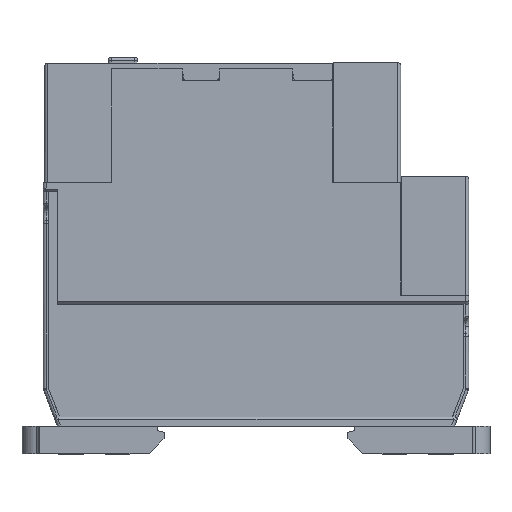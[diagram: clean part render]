
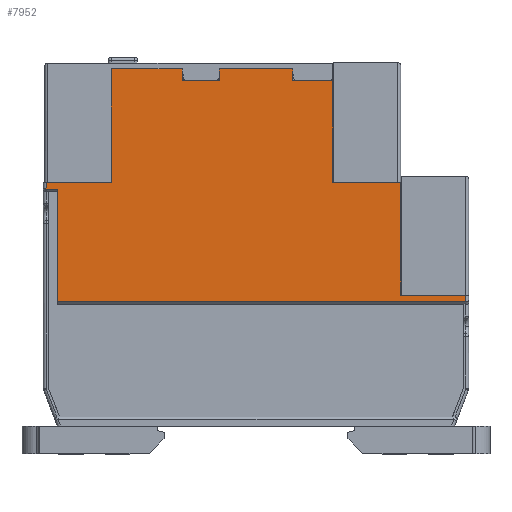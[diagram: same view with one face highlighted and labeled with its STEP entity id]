
A CAD part, left-side view. The second image highlights one B-rep face of the part: STEP entity #7952.
In plain terms, the highlighted planar face has unit normal (-1, 0, 0).
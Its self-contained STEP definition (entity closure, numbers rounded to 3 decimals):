
#323 = VERTEX_POINT ( 'NONE', #24700 ) ;
#411 = LINE ( 'NONE', #27509, #3216 ) ;
#596 = VECTOR ( 'NONE', #2164, 1000. ) ;
#692 = AXIS2_PLACEMENT_3D ( 'NONE', #9901, #19812, #29772 ) ;
#1011 = LINE ( 'NONE', #1178, #21867 ) ;
#1178 = CARTESIAN_POINT ( 'NONE',  ( 0., 4.304, 47.83 ) ) ;
#1490 = DIRECTION ( 'NONE',  ( 0., 0., 1. ) ) ;
#1542 = ORIENTED_EDGE ( 'NONE', *, *, #7914, .T. ) ;
#1998 = CARTESIAN_POINT ( 'NONE',  ( 0., 67.304, 47.83 ) ) ;
#2164 = DIRECTION ( 'NONE',  ( 0., 1., 0. ) ) ;
#2226 = VERTEX_POINT ( 'NONE', #3435 ) ;
#2334 = CARTESIAN_POINT ( 'NONE',  ( 0., 41.6, 48.384 ) ) ;
#2358 = VERTEX_POINT ( 'NONE', #23883 ) ;
#2534 = VERTEX_POINT ( 'NONE', #26249 ) ;
#2629 = LINE ( 'NONE', #10074, #11152 ) ;
#2683 = CARTESIAN_POINT ( 'NONE',  ( 0., 67.304, 68.544 ) ) ;
#2704 = VECTOR ( 'NONE', #15376, 1000. ) ;
#2785 = VERTEX_POINT ( 'NONE', #2683 ) ;
#2808 = VERTEX_POINT ( 'NONE', #30115 ) ;
#2964 = VERTEX_POINT ( 'NONE', #13668 ) ;
#3145 = CARTESIAN_POINT ( 'NONE',  ( 0., 48.102, 68.544 ) ) ;
#3157 = CARTESIAN_POINT ( 'NONE',  ( 0., 27.992, 47.83 ) ) ;
#3216 = VECTOR ( 'NONE', #12533, 1000. ) ;
#3405 = CARTESIAN_POINT ( 'NONE',  ( 0., 48.102, 66.427 ) ) ;
#3417 = DIRECTION ( 'NONE',  ( 0., 0., 1. ) ) ;
#3435 = CARTESIAN_POINT ( 'NONE',  ( 0., 15.896, 48.384 ) ) ;
#3632 = LINE ( 'NONE', #3157, #18001 ) ;
#4084 = LINE ( 'NONE', #15725, #8293 ) ;
#4170 = VECTOR ( 'NONE', #25401, 1000. ) ;
#4439 = LINE ( 'NONE', #1998, #20778 ) ;
#4662 = VERTEX_POINT ( 'NONE', #22268 ) ;
#5545 = EDGE_CURVE ( 'NONE', #2785, #2964, #4439, .T. ) ;
#5731 = EDGE_CURVE ( 'NONE', #23628, #13111, #27956, .T. ) ;
#5747 = VERTEX_POINT ( 'NONE', #23075 ) ;
#6636 = DIRECTION ( 'NONE',  ( 0., 0., -1. ) ) ;
#6660 = ORIENTED_EDGE ( 'NONE', *, *, #18634, .T. ) ;
#6709 = VERTEX_POINT ( 'NONE', #16909 ) ;
#6848 = ORIENTED_EDGE ( 'NONE', *, *, #18455, .T. ) ;
#7369 = DIRECTION ( 'NONE',  ( 0., -1., 0. ) ) ;
#7517 = DIRECTION ( 'NONE',  ( 0., 1., 0. ) ) ;
#7528 = ORIENTED_EDGE ( 'NONE', *, *, #7567, .T. ) ;
#7567 = EDGE_CURVE ( 'NONE', #5747, #9955, #411, .T. ) ;
#7630 = DIRECTION ( 'NONE',  ( 0., -1., 0. ) ) ;
#7704 = ORIENTED_EDGE ( 'NONE', *, *, #28274, .T. ) ;
#7914 = EDGE_CURVE ( 'NONE', #2226, #2358, #11846, .T. ) ;
#7952 = ADVANCED_FACE ( 'NONE', ( #32042 ), #9744, .T. ) ;
#8225 = ORIENTED_EDGE ( 'NONE', *, *, #12262, .T. ) ;
#8293 = VECTOR ( 'NONE', #1490, 1000. ) ;
#8413 = LINE ( 'NONE', #25497, #2704 ) ;
#9210 = CARTESIAN_POINT ( 'NONE',  ( 0., 76.88, 47.83 ) ) ;
#9356 = VECTOR ( 'NONE', #6636, 1000. ) ;
#9433 = LINE ( 'NONE', #17218, #596 ) ;
#9638 = ORIENTED_EDGE ( 'NONE', *, *, #19550, .T. ) ;
#9639 = LINE ( 'NONE', #19530, #10963 ) ;
#9734 = DIRECTION ( 'NONE',  ( 0., -1., 0. ) ) ;
#9744 = PLANE ( 'NONE',  #692 ) ;
#9765 = EDGE_CURVE ( 'NONE', #323, #5747, #11279, .T. ) ;
#9880 = ORIENTED_EDGE ( 'NONE', *, *, #15754, .T. ) ;
#9901 = CARTESIAN_POINT ( 'NONE',  ( 0., 78.896, 27.115 ) ) ;
#9955 = VERTEX_POINT ( 'NONE', #13214 ) ;
#9978 = ORIENTED_EDGE ( 'NONE', *, *, #31064, .T. ) ;
#10074 = CARTESIAN_POINT ( 'NONE',  ( 0., 67.228, 48.384 ) ) ;
#10796 = ORIENTED_EDGE ( 'NONE', *, *, #25894, .F. ) ;
#10963 = VECTOR ( 'NONE', #7369, 1000. ) ;
#11152 = VECTOR ( 'NONE', #7630, 1000. ) ;
#11279 = LINE ( 'NONE', #30980, #13062 ) ;
#11846 = LINE ( 'NONE', #2334, #12047 ) ;
#12029 = EDGE_CURVE ( 'NONE', #4662, #2808, #22109, .T. ) ;
#12047 = VECTOR ( 'NONE', #14618, 1000. ) ;
#12262 = EDGE_CURVE ( 'NONE', #9955, #6709, #31511, .T. ) ;
#12533 = DIRECTION ( 'NONE',  ( 0., -1., 0. ) ) ;
#13007 = CARTESIAN_POINT ( 'NONE',  ( 0., 41.6, 68.544 ) ) ;
#13018 = ORIENTED_EDGE ( 'NONE', *, *, #23029, .T. ) ;
#13062 = VECTOR ( 'NONE', #21199, 1000. ) ;
#13111 = VERTEX_POINT ( 'NONE', #26960 ) ;
#13143 = ORIENTED_EDGE ( 'NONE', *, *, #27881, .T. ) ;
#13214 = CARTESIAN_POINT ( 'NONE',  ( 0., 76.88, 47.174 ) ) ;
#13668 = CARTESIAN_POINT ( 'NONE',  ( 0., 67.304, 48.384 ) ) ;
#13770 = LINE ( 'NONE', #24055, #9356 ) ;
#14249 = VERTEX_POINT ( 'NONE', #25312 ) ;
#14608 = DIRECTION ( 'NONE',  ( 0., 0., -1. ) ) ;
#14618 = DIRECTION ( 'NONE',  ( 0., 1., 0. ) ) ;
#14919 = CARTESIAN_POINT ( 'NONE',  ( 0., 27.992, 66.427 ) ) ;
#15103 = VECTOR ( 'NONE', #29001, 1000. ) ;
#15228 = CARTESIAN_POINT ( 'NONE',  ( 0., 10.856, 28.325 ) ) ;
#15376 = DIRECTION ( 'NONE',  ( 0., 1., 0. ) ) ;
#15437 = CARTESIAN_POINT ( 'NONE',  ( 0., 41.6, 66.427 ) ) ;
#15725 = CARTESIAN_POINT ( 'NONE',  ( 0., 15.896, 47.83 ) ) ;
#15754 = EDGE_CURVE ( 'NONE', #2358, #25889, #3632, .T. ) ;
#16671 = DIRECTION ( 'NONE',  ( 0., 0., -1. ) ) ;
#16909 = CARTESIAN_POINT ( 'NONE',  ( 0., 76.88, 27.115 ) ) ;
#17218 = CARTESIAN_POINT ( 'NONE',  ( 0., 41.6, 68.544 ) ) ;
#17879 = LINE ( 'NONE', #15437, #4170 ) ;
#17900 = ORIENTED_EDGE ( 'NONE', *, *, #5731, .T. ) ;
#18001 = VECTOR ( 'NONE', #22980, 1000. ) ;
#18380 = ORIENTED_EDGE ( 'NONE', *, *, #9765, .T. ) ;
#18455 = EDGE_CURVE ( 'NONE', #13111, #2785, #9433, .T. ) ;
#18634 = EDGE_CURVE ( 'NONE', #19729, #21319, #13770, .T. ) ;
#19052 = CARTESIAN_POINT ( 'NONE',  ( 0., 35.098, 47.83 ) ) ;
#19530 = CARTESIAN_POINT ( 'NONE',  ( 0., 41.6, 27.115 ) ) ;
#19550 = EDGE_CURVE ( 'NONE', #6709, #2534, #9639, .T. ) ;
#19575 = EDGE_CURVE ( 'NONE', #14249, #32017, #21512, .T. ) ;
#19729 = VERTEX_POINT ( 'NONE', #3145 ) ;
#19812 = DIRECTION ( 'NONE',  ( -1., 0., 0. ) ) ;
#20778 = VECTOR ( 'NONE', #14608, 1000. ) ;
#20913 = CARTESIAN_POINT ( 'NONE',  ( 0., 54.704, 47.83 ) ) ;
#21199 = DIRECTION ( 'NONE',  ( 0., 0., -1. ) ) ;
#21319 = VERTEX_POINT ( 'NONE', #3405 ) ;
#21512 = LINE ( 'NONE', #19052, #15103 ) ;
#21867 = VECTOR ( 'NONE', #27982, 1000. ) ;
#22109 = LINE ( 'NONE', #15228, #31506 ) ;
#22268 = CARTESIAN_POINT ( 'NONE',  ( 0., 15.896, 28.325 ) ) ;
#22958 = LINE ( 'NONE', #13007, #30244 ) ;
#22980 = DIRECTION ( 'NONE',  ( 0., 0., 1. ) ) ;
#23029 = EDGE_CURVE ( 'NONE', #32017, #19729, #22958, .T. ) ;
#23031 = EDGE_LOOP ( 'NONE', ( #9638, #27179, #28739, #7704, #1542, #9880, #9978, #28338, #13018, #6660, #13143, #17900, #6848, #29055, #10796, #18380, #7528, #8225 ) ) ;
#23075 = CARTESIAN_POINT ( 'NONE',  ( 0., 78.896, 47.174 ) ) ;
#23628 = VERTEX_POINT ( 'NONE', #29681 ) ;
#23883 = CARTESIAN_POINT ( 'NONE',  ( 0., 27.992, 48.384 ) ) ;
#23904 = VECTOR ( 'NONE', #3417, 1000. ) ;
#24055 = CARTESIAN_POINT ( 'NONE',  ( 0., 48.102, 47.83 ) ) ;
#24700 = CARTESIAN_POINT ( 'NONE',  ( 0., 78.896, 48.384 ) ) ;
#25312 = CARTESIAN_POINT ( 'NONE',  ( 0., 35.098, 66.427 ) ) ;
#25401 = DIRECTION ( 'NONE',  ( 0., 1., 0. ) ) ;
#25497 = CARTESIAN_POINT ( 'NONE',  ( 0., 41.6, 66.427 ) ) ;
#25889 = VERTEX_POINT ( 'NONE', #14919 ) ;
#25894 = EDGE_CURVE ( 'NONE', #323, #2964, #2629, .T. ) ;
#26249 = CARTESIAN_POINT ( 'NONE',  ( 0., 4.304, 27.115 ) ) ;
#26960 = CARTESIAN_POINT ( 'NONE',  ( 0., 54.704, 68.544 ) ) ;
#27179 = ORIENTED_EDGE ( 'NONE', *, *, #30797, .T. ) ;
#27316 = CARTESIAN_POINT ( 'NONE',  ( 0., 35.098, 68.544 ) ) ;
#27509 = CARTESIAN_POINT ( 'NONE',  ( 0., 41.6, 47.174 ) ) ;
#27881 = EDGE_CURVE ( 'NONE', #21319, #23628, #17879, .T. ) ;
#27956 = LINE ( 'NONE', #20913, #23904 ) ;
#27982 = DIRECTION ( 'NONE',  ( 0., 0., 1. ) ) ;
#28274 = EDGE_CURVE ( 'NONE', #4662, #2226, #4084, .T. ) ;
#28338 = ORIENTED_EDGE ( 'NONE', *, *, #19575, .T. ) ;
#28739 = ORIENTED_EDGE ( 'NONE', *, *, #12029, .F. ) ;
#29001 = DIRECTION ( 'NONE',  ( 0., 0., 1. ) ) ;
#29055 = ORIENTED_EDGE ( 'NONE', *, *, #5545, .T. ) ;
#29681 = CARTESIAN_POINT ( 'NONE',  ( 0., 54.704, 66.427 ) ) ;
#29772 = DIRECTION ( 'NONE',  ( 0., -1., 0. ) ) ;
#29934 = VECTOR ( 'NONE', #16671, 1000. ) ;
#30115 = CARTESIAN_POINT ( 'NONE',  ( 0., 4.304, 28.325 ) ) ;
#30244 = VECTOR ( 'NONE', #7517, 1000. ) ;
#30797 = EDGE_CURVE ( 'NONE', #2534, #2808, #1011, .T. ) ;
#30980 = CARTESIAN_POINT ( 'NONE',  ( 0., 78.896, 47.83 ) ) ;
#31064 = EDGE_CURVE ( 'NONE', #25889, #14249, #8413, .T. ) ;
#31506 = VECTOR ( 'NONE', #9734, 1000. ) ;
#31511 = LINE ( 'NONE', #9210, #29934 ) ;
#32017 = VERTEX_POINT ( 'NONE', #27316 ) ;
#32042 = FACE_OUTER_BOUND ( 'NONE', #23031, .T. ) ;
